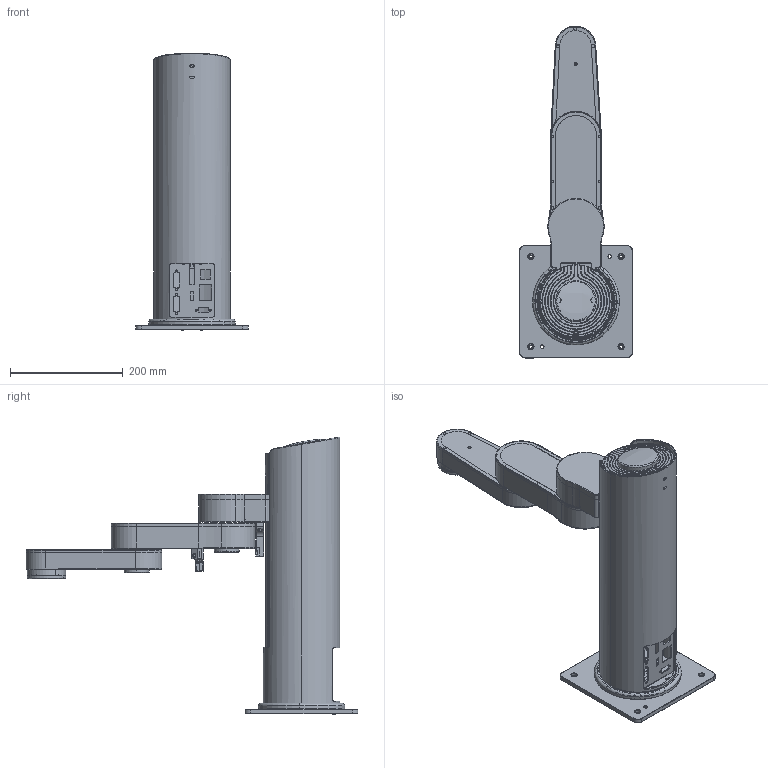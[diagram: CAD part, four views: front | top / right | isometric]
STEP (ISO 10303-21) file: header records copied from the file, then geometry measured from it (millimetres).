
FILE_DESCRIPTION(('CATIA V5 STEP Exchange'),'2;1');
FILE_NAME('F:\LYJ 工作文件\机械臂系列\Z-Arm 1632\A26 V1.6.1\简化图2\模型\Z-Arm 1632 V1.6.1stp.stp','2020-03-06T05:52:39+00:00',('none'),('none'),'CATIA Version 5 Release 20 GA (IN-10)','CATIA V5 STEP AP203','none');
FILE_SCHEMA(('CONFIG_CONTROL_DESIGN'));
Products named in the file (1): 产品1
Assembly tree (4 placements, depth 2):
  产品1
    #58
    #35098
    #45061
    #53470
Bounding box: 200 x 588.5 x 492.66 mm (x, y, z)
Volume: 3391693.7 mm3; surface area: 923524.1 mm2
Topology: 43 solids, 43 shells, 2111 faces, 5347 edges, 3357 vertices
Faces by surface type: cylinder 880, plane 697, cone 246, bspline 130, torus 128, extrusion 16, sphere 14
Entity records: 68681 total; most frequent: CARTESIAN_POINT 21660, ORIENTED_EDGE 10602, DIRECTION 7482, EDGE_CURVE 5301, AXIS2_PLACEMENT_3D 3614, VERTEX_POINT 3357, EDGE_LOOP 2520, VECTOR 2434
